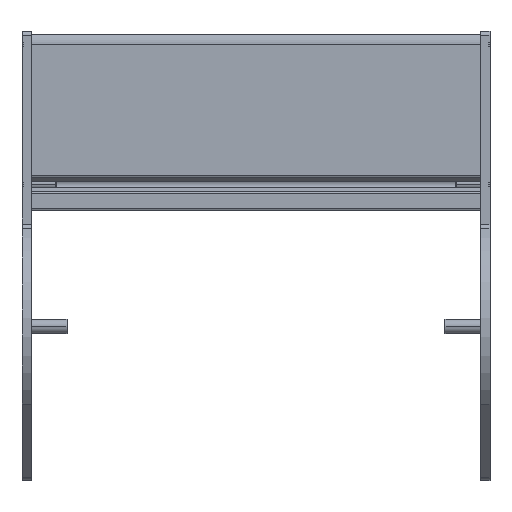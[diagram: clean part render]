
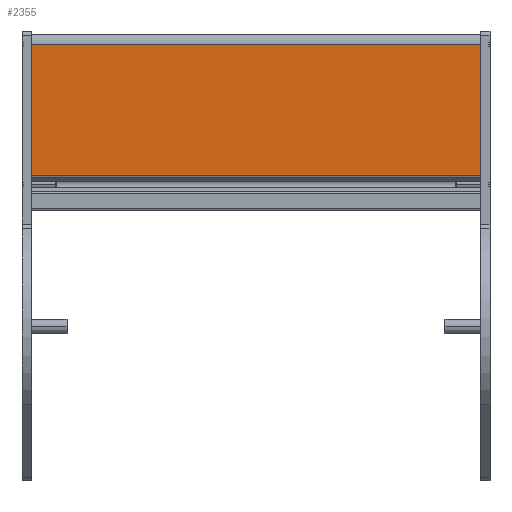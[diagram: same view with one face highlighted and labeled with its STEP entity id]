
A CAD part, top view. The second image highlights one B-rep face of the part: STEP entity #2355.
In plain terms, the highlighted planar face has unit normal (0, 0, 1) as drawn and (1, 0, 0) by its records, which use the part's own axes.
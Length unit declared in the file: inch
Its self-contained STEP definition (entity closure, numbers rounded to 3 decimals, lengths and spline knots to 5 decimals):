
#217=DIRECTION('',(0.,1.,0.));
#218=VECTOR('',#217,1.81445);
#219=CARTESIAN_POINT('',(0.683,-0.84545,-3.118));
#220=LINE('',#219,#218);
#343=DIRECTION('',(0.,1.,0.));
#344=VECTOR('',#343,1.81445);
#345=CARTESIAN_POINT('',(0.683,-0.84545,3.118));
#346=LINE('',#345,#344);
#674=DIRECTION('',(0.,0.,1.));
#675=VECTOR('',#674,6.236);
#676=CARTESIAN_POINT('',(0.683,0.969,-3.118));
#677=LINE('',#676,#675);
#687=DIRECTION('',(0.,0.,-1.));
#688=VECTOR('',#687,6.236);
#689=CARTESIAN_POINT('',(0.683,-0.84545,3.118));
#690=LINE('',#689,#688);
#1298=CARTESIAN_POINT('',(0.683,-0.84545,-3.118));
#1299=CARTESIAN_POINT('',(0.683,0.969,-3.118));
#1300=VERTEX_POINT('',#1298);
#1301=VERTEX_POINT('',#1299);
#1302=CARTESIAN_POINT('',(0.683,-0.84545,3.118));
#1303=CARTESIAN_POINT('',(0.683,0.969,3.118));
#1304=VERTEX_POINT('',#1302);
#1305=VERTEX_POINT('',#1303);
#2343=CARTESIAN_POINT('',(0.683,-0.86334,-3.118));
#2344=DIRECTION('',(1.,0.,0.));
#2345=DIRECTION('',(0.,1.,0.));
#2346=AXIS2_PLACEMENT_3D('',#2343,#2344,#2345);
#2347=PLANE('',#2346);
#2348=ORIENTED_EDGE('',*,*,#1667,.F.);
#2350=ORIENTED_EDGE('',*,*,#2349,.F.);
#2351=ORIENTED_EDGE('',*,*,#1774,.T.);
#2352=ORIENTED_EDGE('',*,*,#2336,.F.);
#2353=EDGE_LOOP('',(#2348,#2350,#2351,#2352));
#2354=FACE_OUTER_BOUND('',#2353,.F.);
#1667=EDGE_CURVE('',#1300,#1301,#220,.T.);
#1774=EDGE_CURVE('',#1304,#1305,#346,.T.);
#2336=EDGE_CURVE('',#1301,#1305,#677,.T.);
#2349=EDGE_CURVE('',#1304,#1300,#690,.T.);
#2355=ADVANCED_FACE('',(#2354),#2347,.T.);
